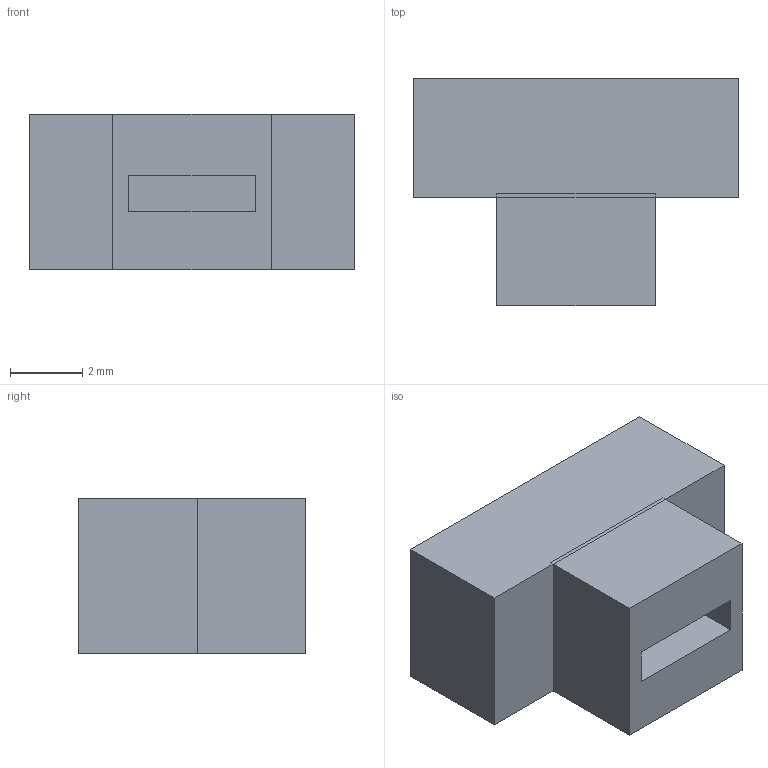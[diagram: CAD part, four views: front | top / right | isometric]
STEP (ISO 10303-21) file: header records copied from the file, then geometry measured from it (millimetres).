
FILE_DESCRIPTION(('Open CASCADE Model'),'2;1');
FILE_NAME('Open CASCADE Shape Model','2026-09-15T14:08:00',('Author'),( 'Open CASCADE'),'Open CASCADE STEP processor 7.7','Open CASCADE 7.7' ,'Unknown');
FILE_SCHEMA(('AUTOMOTIVE_DESIGN { 1 0 10303 214 1 1 1 1 }'));
Length unit declared in the file: millimetre
Products named in the file (1): ADD_P01_J9_SPLICE_SADDLE_AND_TAPE_EYELET
Bounding box: 9 x 6.3 x 4.3 mm (x, y, z)
Volume: 174 mm3; surface area: 244.4 mm2
Topology: 1 solids, 1 shells, 19 faces, 44 edges, 28 vertices
Faces by surface type: plane 19
Entity records: 1088 total; most frequent: CARTESIAN_POINT 200, DIRECTION 152, LINE 112, VECTOR 112, ORIENTED_EDGE 88, PCURVE 88, DEFINITIONAL_REPRESENTATION 88, EDGE_CURVE 44
